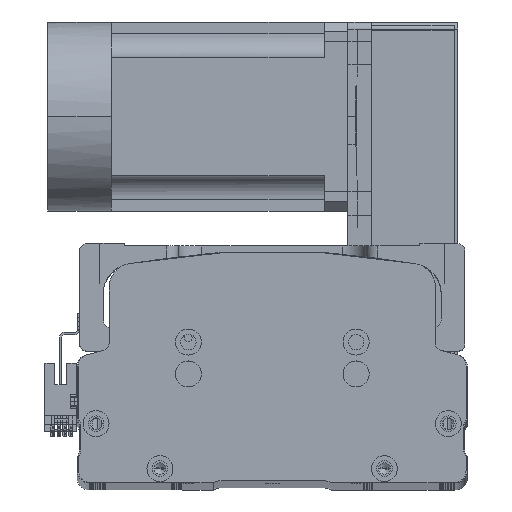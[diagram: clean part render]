
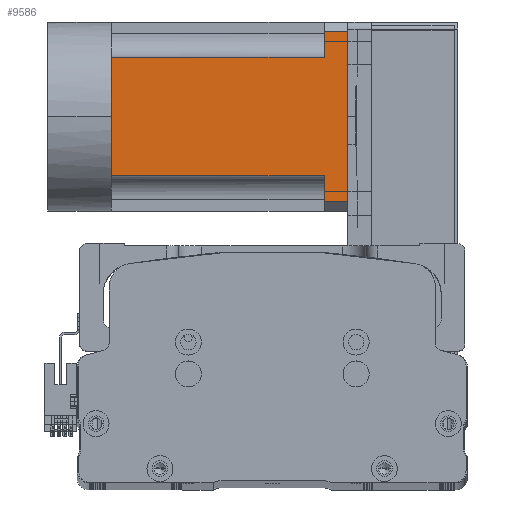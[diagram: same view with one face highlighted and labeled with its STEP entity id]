
A CAD part, top view. The second image highlights one B-rep face of the part: STEP entity #9586.
In plain terms, the highlighted planar face has unit normal (0, 0, 1) as drawn and (0, 0, -1) by its records, which use the part's own axes.
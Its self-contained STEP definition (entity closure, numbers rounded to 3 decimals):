
#76 = DIRECTION ( 'NONE',  ( 0., 1., 0. ) ) ;
#1107 = PLANE ( 'NONE',  #47109 ) ;
#3273 = DIRECTION ( 'NONE',  ( 0., 1., 0. ) ) ;
#3974 = EDGE_CURVE ( 'NONE', #16103, #42936, #26492, .T. ) ;
#5002 = EDGE_CURVE ( 'NONE', #61199, #31887, #21283, .T. ) ;
#5196 = CARTESIAN_POINT ( 'NONE',  ( 36., 90., -40. ) ) ;
#5607 = CARTESIAN_POINT ( 'NONE',  ( -40., 90., -40. ) ) ;
#5871 = EDGE_LOOP ( 'NONE', ( #14459, #12065, #46280, #38010, #55691, #42777, #56775, #31707, #16337 ) ) ;
#5926 = CARTESIAN_POINT ( 'NONE',  ( -40., 0., -40. ) ) ;
#6604 = CARTESIAN_POINT ( 'NONE',  ( -40., -27., -40. ) ) ;
#7398 = VECTOR ( 'NONE', #64018, 1000. ) ;
#7870 = LINE ( 'NONE', #26081, #48484 ) ;
#8099 = DIRECTION ( 'NONE',  ( 0., -1., 0. ) ) ;
#8505 = VECTOR ( 'NONE', #76, 1000. ) ;
#9586 = ADVANCED_FACE ( 'NONE', ( #52842 ), #1107, .T. ) ;
#11249 = DIRECTION ( 'NONE',  ( -1., 0., 0. ) ) ;
#12065 = ORIENTED_EDGE ( 'NONE', *, *, #62444, .T. ) ;
#12781 = DIRECTION ( 'NONE',  ( 0., -1., 0. ) ) ;
#14459 = ORIENTED_EDGE ( 'NONE', *, *, #5002, .F. ) ;
#16103 = VERTEX_POINT ( 'NONE', #44410 ) ;
#16227 = VECTOR ( 'NONE', #12781, 1000. ) ;
#16337 = ORIENTED_EDGE ( 'NONE', *, *, #54350, .T. ) ;
#16471 = VERTEX_POINT ( 'NONE', #52466 ) ;
#17297 = DIRECTION ( 'NONE',  ( -1., 0., 0. ) ) ;
#18890 = VECTOR ( 'NONE', #36342, 1000. ) ;
#19722 = LINE ( 'NONE', #39885, #47889 ) ;
#21283 = LINE ( 'NONE', #57814, #49473 ) ;
#21426 = VERTEX_POINT ( 'NONE', #50341 ) ;
#22614 = LINE ( 'NONE', #58146, #8505 ) ;
#23313 = CARTESIAN_POINT ( 'NONE',  ( 25., 0., -40. ) ) ;
#24380 = CARTESIAN_POINT ( 'NONE',  ( -36., -27., -40. ) ) ;
#25198 = EDGE_CURVE ( 'NONE', #67986, #21426, #7870, .T. ) ;
#25224 = VERTEX_POINT ( 'NONE', #5196 ) ;
#26081 = CARTESIAN_POINT ( 'NONE',  ( -40., 0., -40. ) ) ;
#26492 = LINE ( 'NONE', #5607, #7398 ) ;
#26808 = CARTESIAN_POINT ( 'NONE',  ( 36., 100., -40. ) ) ;
#26918 = VECTOR ( 'NONE', #11249, 1000. ) ;
#28616 = LINE ( 'NONE', #5926, #26918 ) ;
#31027 = CARTESIAN_POINT ( 'NONE',  ( -40., 90., -40. ) ) ;
#31707 = ORIENTED_EDGE ( 'NONE', *, *, #3974, .T. ) ;
#31887 = VERTEX_POINT ( 'NONE', #50636 ) ;
#34330 = CARTESIAN_POINT ( 'NONE',  ( 25., -27., -40. ) ) ;
#34625 = LINE ( 'NONE', #31027, #18890 ) ;
#36342 = DIRECTION ( 'NONE',  ( -1., 0., 0. ) ) ;
#38010 = ORIENTED_EDGE ( 'NONE', *, *, #43667, .T. ) ;
#39319 = EDGE_CURVE ( 'NONE', #53776, #16103, #22614, .T. ) ;
#39885 = CARTESIAN_POINT ( 'NONE',  ( 36., -27., -40. ) ) ;
#42058 = DIRECTION ( 'NONE',  ( -1., 0., 0. ) ) ;
#42777 = ORIENTED_EDGE ( 'NONE', *, *, #64852, .T. ) ;
#42936 = VERTEX_POINT ( 'NONE', #62898 ) ;
#43667 = EDGE_CURVE ( 'NONE', #16471, #67986, #46050, .T. ) ;
#44316 = CARTESIAN_POINT ( 'NONE',  ( -25., 0., -40. ) ) ;
#44410 = CARTESIAN_POINT ( 'NONE',  ( -25., 90., -40. ) ) ;
#46050 = LINE ( 'NONE', #34330, #16227 ) ;
#46280 = ORIENTED_EDGE ( 'NONE', *, *, #47511, .T. ) ;
#47109 = AXIS2_PLACEMENT_3D ( 'NONE', #6604, #49022, #17297 ) ;
#47511 = EDGE_CURVE ( 'NONE', #25224, #16471, #34625, .T. ) ;
#47889 = VECTOR ( 'NONE', #8099, 1000. ) ;
#48298 = VECTOR ( 'NONE', #3273, 1000. ) ;
#48484 = VECTOR ( 'NONE', #42058, 1000. ) ;
#49022 = DIRECTION ( 'NONE',  ( 0., 0., -1. ) ) ;
#49473 = VECTOR ( 'NONE', #52508, 1000. ) ;
#50341 = CARTESIAN_POINT ( 'NONE',  ( 0., 0., -40. ) ) ;
#50636 = CARTESIAN_POINT ( 'NONE',  ( -36., 100., -40. ) ) ;
#52466 = CARTESIAN_POINT ( 'NONE',  ( 25., 90., -40. ) ) ;
#52508 = DIRECTION ( 'NONE',  ( -1., 0., 0. ) ) ;
#52842 = FACE_OUTER_BOUND ( 'NONE', #5871, .T. ) ;
#53776 = VERTEX_POINT ( 'NONE', #44316 ) ;
#54350 = EDGE_CURVE ( 'NONE', #42936, #31887, #62405, .T. ) ;
#55691 = ORIENTED_EDGE ( 'NONE', *, *, #25198, .T. ) ;
#56775 = ORIENTED_EDGE ( 'NONE', *, *, #39319, .T. ) ;
#57814 = CARTESIAN_POINT ( 'NONE',  ( -40., 100., -40. ) ) ;
#58146 = CARTESIAN_POINT ( 'NONE',  ( -25., -27., -40. ) ) ;
#61199 = VERTEX_POINT ( 'NONE', #26808 ) ;
#62405 = LINE ( 'NONE', #24380, #48298 ) ;
#62444 = EDGE_CURVE ( 'NONE', #61199, #25224, #19722, .T. ) ;
#62898 = CARTESIAN_POINT ( 'NONE',  ( -36., 90., -40. ) ) ;
#64018 = DIRECTION ( 'NONE',  ( -1., 0., 0. ) ) ;
#64852 = EDGE_CURVE ( 'NONE', #21426, #53776, #28616, .T. ) ;
#67986 = VERTEX_POINT ( 'NONE', #23313 ) ;
